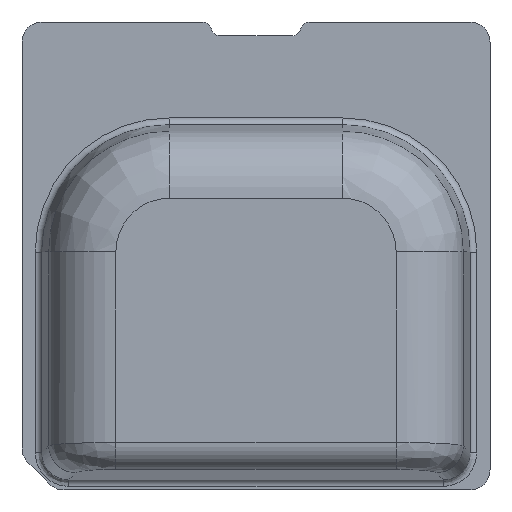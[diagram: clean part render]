
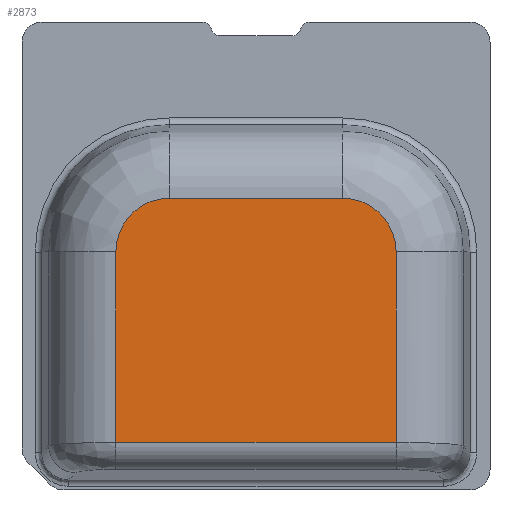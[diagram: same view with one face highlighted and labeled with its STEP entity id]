
A CAD part, top view. The second image highlights one B-rep face of the part: STEP entity #2873.
In plain terms, the highlighted planar face has unit normal (0, 0, 1).
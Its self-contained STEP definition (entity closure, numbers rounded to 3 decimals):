
#2717=CARTESIAN_POINT('Vertex',(4.162,0.118,5.32)) ;
#2724=CARTESIAN_POINT('Vertex',(2.572,1.707,5.32)) ;
#2727=CARTESIAN_POINT('Axis2P3D Location',(2.572,0.118,5.32)) ;
#2772=CARTESIAN_POINT('Vertex',(-2.572,1.707,5.32)) ;
#2775=CARTESIAN_POINT('Line Origine',(0.,1.707,5.32)) ;
#2826=CARTESIAN_POINT('Vertex',(-4.162,0.118,5.32)) ;
#2829=CARTESIAN_POINT('Axis2P3D Location',(-2.572,0.118,5.32)) ;
#2841=CARTESIAN_POINT('Axis2P3D Location',(0.,0.,5.32)) ;
#2846=CARTESIAN_POINT('Line Origine',(4.162,-2.714,5.32)) ;
#2850=CARTESIAN_POINT('Vertex',(4.162,-5.547,5.32)) ;
#2853=CARTESIAN_POINT('Line Origine',(-4.162,-2.714,5.32)) ;
#2857=CARTESIAN_POINT('Vertex',(-4.162,-5.547,5.32)) ;
#2860=CARTESIAN_POINT('Line Origine',(0.,-5.547,5.32)) ;
#2728=DIRECTION('Axis2P3D Direction',(0.,0.,1.)) ;
#2776=DIRECTION('Vector Direction',(1.,0.,0.)) ;
#2830=DIRECTION('Axis2P3D Direction',(-0.,0.,1.)) ;
#2842=DIRECTION('Axis2P3D Direction',(0.,0.,1.)) ;
#2843=DIRECTION('Axis2P3D XDirection',(1.,0.,0.)) ;
#2847=DIRECTION('Vector Direction',(0.,-1.,0.)) ;
#2854=DIRECTION('Vector Direction',(0.,-1.,0.)) ;
#2861=DIRECTION('Vector Direction',(1.,0.,0.)) ;
#2729=AXIS2_PLACEMENT_3D('Circle Axis2P3D',#2727,#2728,$) ;
#2831=AXIS2_PLACEMENT_3D('Circle Axis2P3D',#2829,#2830,$) ;
#2844=AXIS2_PLACEMENT_3D('Plane Axis2P3D',#2841,#2842,#2843) ;
#2866=ORIENTED_EDGE('',*,*,#2852,.T.) ;
#2867=ORIENTED_EDGE('',*,*,#2731,.T.) ;
#2868=ORIENTED_EDGE('',*,*,#2779,.T.) ;
#2869=ORIENTED_EDGE('',*,*,#2833,.T.) ;
#2870=ORIENTED_EDGE('',*,*,#2859,.T.) ;
#2871=ORIENTED_EDGE('',*,*,#2864,.T.) ;
#2777=VECTOR('Line Direction',#2776,1.) ;
#2848=VECTOR('Line Direction',#2847,1.) ;
#2855=VECTOR('Line Direction',#2854,1.) ;
#2862=VECTOR('Line Direction',#2861,1.) ;
#2873=ADVANCED_FACE('STRADELLA',(#2872),#2845,.T.) ;
#2730=CIRCLE('generated circle',#2729,1.589) ;
#2832=CIRCLE('generated circle',#2831,1.589) ;
#2731=EDGE_CURVE('',#2718,#2725,#2730,.T.) ;
#2779=EDGE_CURVE('',#2725,#2773,#2778,.F.) ;
#2833=EDGE_CURVE('',#2773,#2827,#2832,.T.) ;
#2852=EDGE_CURVE('',#2851,#2718,#2849,.F.) ;
#2859=EDGE_CURVE('',#2827,#2858,#2856,.T.) ;
#2864=EDGE_CURVE('',#2858,#2851,#2863,.T.) ;
#2865=EDGE_LOOP('',(#2866,#2867,#2868,#2869,#2870,#2871)) ;
#2872=FACE_OUTER_BOUND('',#2865,.T.) ;
#2778=LINE('Line',#2775,#2777) ;
#2849=LINE('Line',#2846,#2848) ;
#2856=LINE('Line',#2853,#2855) ;
#2863=LINE('Line',#2860,#2862) ;
#2845=PLANE('',#2844) ;
#2718=VERTEX_POINT('',#2717) ;
#2725=VERTEX_POINT('',#2724) ;
#2773=VERTEX_POINT('',#2772) ;
#2827=VERTEX_POINT('',#2826) ;
#2851=VERTEX_POINT('',#2850) ;
#2858=VERTEX_POINT('',#2857) ;
